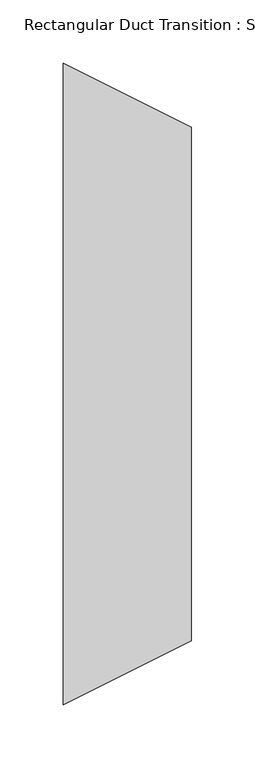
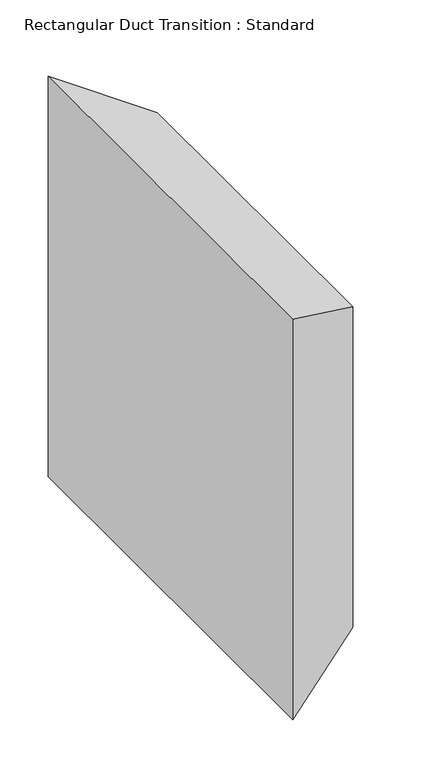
"""IFC4 building model written with IfcOpenShell, lengths in millimetres: duct fitting geometry, Rectangular Duct Transition : Standard."""

from ifc_helpers import new_model, si_unit, origin, place, context, project, spatial, faceted_brep, source, transform, mapped, element, save


def rectangular_duct_transition_standard_a76c8676(model_context):
    return source(origin(), model_context, "Body", "Brep", [
        faceted_brep([(101.6, -203.2, 203.2), (101.6, -203.2, -203.2), (101.6, 203.2, -203.2), (101.6, 203.2, 203.2), (0.0, -254.0, 254.0), (0.0, 254.0, 254.0), (0.0, 254.0, -254.0), (0.0, -254.0, -254.0)], [[[0, 1, 2, 3]], [[4, 5, 6, 7]], [[4, 7, 1, 0]], [[7, 6, 2, 1]], [[6, 5, 3, 2]], [[5, 4, 0, 3]]]),
        faceted_brep([(101.6, -203.2, 203.2), (101.6, -203.2, -203.2), (101.6, 203.2, -203.2), (101.6, 203.2, 203.2), (0.0, -254.0, 254.0), (0.0, 254.0, 254.0), (0.0, 254.0, -254.0), (0.0, -254.0, -254.0)], [[[0, 1, 2, 3]], [[4, 5, 6, 7]], [[4, 7, 1, 0]], [[7, 6, 2, 1]], [[6, 5, 3, 2]], [[5, 4, 0, 3]]]),
        faceted_brep([(101.6, -203.2, 203.2), (101.6, -203.2, -203.2), (101.6, 203.2, -203.2), (101.6, 203.2, 203.2), (0.0, -254.0, 254.0), (0.0, 254.0, 254.0), (0.0, 254.0, -254.0), (0.0, -254.0, -254.0)], [[[0, 1, 2, 3]], [[4, 5, 6, 7]], [[4, 7, 1, 0]], [[7, 6, 2, 1]], [[6, 5, 3, 2]], [[5, 4, 0, 3]]]),
    ])


if __name__ == "__main__":
    model = new_model("IFC4")
    model_context = context("Model", 3, world=origin())
    ifc_project = project(units=[si_unit("LENGTHUNIT", "METRE", prefix="MILLI")], contexts=[model_context])
    site = spatial("IfcSite", under=ifc_project)
    building = spatial("IfcBuilding", under=site)
    placement = place(None, origin())
    rectangular_duct_transition_standard_shape = rectangular_duct_transition_standard_a76c8676(model_context)
    element("IfcDuctFitting", 1, ObjectType="Rectangular Duct Transition : Standard", at=placement, inside=building, context=model_context, shape_type="MappedRepresentation", body=[
        mapped(rectangular_duct_transition_standard_shape, transform((0.0, 0.0, 0.0), x_axis=(1.0, 0.0, 0.0), y_axis=(0.0, 1.0, 0.0), z_axis=(0.0, 0.0, 1.0))),
    ])
    save(model, "model.ifc")
